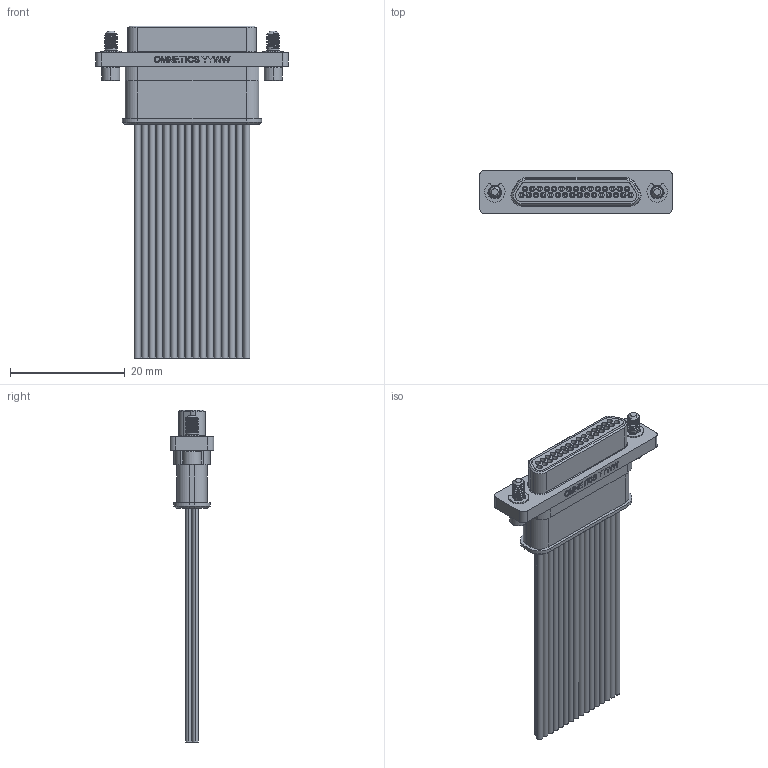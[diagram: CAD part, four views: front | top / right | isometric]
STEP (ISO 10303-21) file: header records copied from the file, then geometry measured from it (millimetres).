
FILE_DESCRIPTION (( 'STEP AP214' ), '1' );
FILE_NAME ('A98181-031 REV A.STEP', '2018-03-09T14:58:37', ( '' ), ( '' ), 'SwSTEP 2.0', 'SolidWorks 2017', '' );
FILE_SCHEMA (( 'AUTOMOTIVE_DESIGN' ));
Length unit declared in the file: inch
Products named in the file (1): A98181-031 REV A
Bounding box: 33.66 x 7.63 x 57.94 mm (x, y, z)
Volume: 3000.5 mm3; surface area: 8481.5 mm2
Topology: 1 solids, 1 shells, 904 faces, 2096 edges, 1336 vertices
Faces by surface type: cylinder 413, plane 339, cone 87, bspline 60, torus 5
Entity records: 29906 total; most frequent: CARTESIAN_POINT 9039, DIRECTION 4475, ORIENTED_EDGE 4180, EDGE_CURVE 2090, AXIS2_PLACEMENT_3D 1705, VERTEX_POINT 1336, VECTOR 1065, LINE 1065
